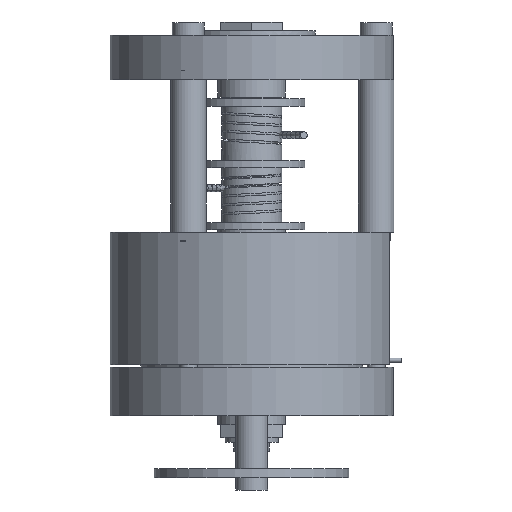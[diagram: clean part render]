
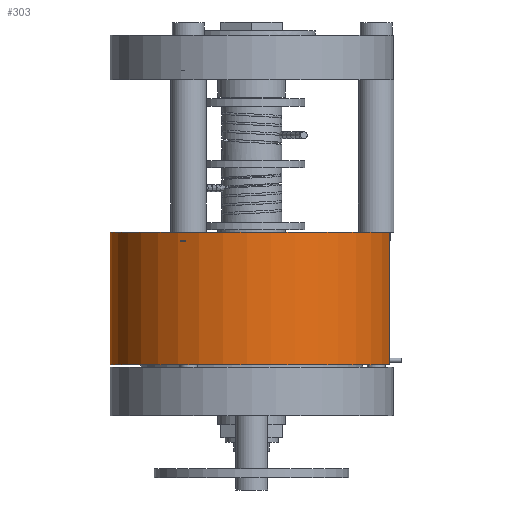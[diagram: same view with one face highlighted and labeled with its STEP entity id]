
A CAD part, left-side view. The second image highlights one B-rep face of the part: STEP entity #303.
In plain terms, the highlighted cylindrical face has radius 16 mm (diameter 32 mm), a partial arc.
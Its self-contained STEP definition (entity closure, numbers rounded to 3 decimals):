
#187 = EDGE_CURVE('',#188,#190,#192,.T.);
#188 = VERTEX_POINT('',#189);
#189 = CARTESIAN_POINT('',(16.,0.,-0.25));
#190 = VERTEX_POINT('',#191);
#191 = CARTESIAN_POINT('',(16.,0.,14.75));
#192 = SURFACE_CURVE('',#193,(#197,#209),.PCURVE_S1.);
#193 = LINE('',#194,#195);
#194 = CARTESIAN_POINT('',(16.,0.,-0.25));
#195 = VECTOR('',#196,1.);
#196 = DIRECTION('',(0.,0.,1.));
#197 = PCURVE('',#198,#203);
#198 = CYLINDRICAL_SURFACE('',#199,16.);
#199 = AXIS2_PLACEMENT_3D('',#200,#201,#202);
#200 = CARTESIAN_POINT('',(0.,0.,-0.25));
#201 = DIRECTION('',(0.,0.,1.));
#202 = DIRECTION('',(1.,0.,-0.));
#203 = DEFINITIONAL_REPRESENTATION('',(#204),#208);
#204 = LINE('',#205,#206);
#205 = CARTESIAN_POINT('',(6.283,-0.));
#206 = VECTOR('',#207,1.);
#207 = DIRECTION('',(0.,1.));
#208 = ( GEOMETRIC_REPRESENTATION_CONTEXT(2) 
PARAMETRIC_REPRESENTATION_CONTEXT() REPRESENTATION_CONTEXT('2D SPACE',''
  ) );
#209 = PCURVE('',#210,#215);
#210 = CYLINDRICAL_SURFACE('',#211,16.);
#211 = AXIS2_PLACEMENT_3D('',#212,#213,#214);
#212 = CARTESIAN_POINT('',(0.,0.,-0.25));
#213 = DIRECTION('',(0.,0.,1.));
#214 = DIRECTION('',(1.,0.,-0.));
#215 = DEFINITIONAL_REPRESENTATION('',(#216),#220);
#216 = LINE('',#217,#218);
#217 = CARTESIAN_POINT('',(0.,-0.));
#218 = VECTOR('',#219,1.);
#219 = DIRECTION('',(0.,1.));
#220 = ( GEOMETRIC_REPRESENTATION_CONTEXT(2) 
PARAMETRIC_REPRESENTATION_CONTEXT() REPRESENTATION_CONTEXT('2D SPACE',''
  ) );
#239 = PLANE('',#240);
#240 = AXIS2_PLACEMENT_3D('',#241,#242,#243);
#241 = CARTESIAN_POINT('',(0.,0.,14.75));
#242 = DIRECTION('',(0.,0.,1.));
#243 = DIRECTION('',(1.,0.,-0.));
#292 = PLANE('',#293);
#293 = AXIS2_PLACEMENT_3D('',#294,#295,#296);
#294 = CARTESIAN_POINT('',(0.,0.,-0.25));
#295 = DIRECTION('',(0.,0.,1.));
#296 = DIRECTION('',(1.,0.,-0.));
#303 = ADVANCED_FACE('',(#304),#210,.T.);
#304 = FACE_BOUND('',#305,.T.);
#305 = EDGE_LOOP('',(#306,#330,#331,#355));
#306 = ORIENTED_EDGE('',*,*,#307,.F.);
#307 = EDGE_CURVE('',#190,#308,#310,.T.);
#308 = VERTEX_POINT('',#309);
#309 = CARTESIAN_POINT('',(-3.5,-15.612,14.75));
#310 = SURFACE_CURVE('',#311,(#316,#323),.PCURVE_S1.);
#311 = CIRCLE('',#312,16.);
#312 = AXIS2_PLACEMENT_3D('',#313,#314,#315);
#313 = CARTESIAN_POINT('',(0.,0.,14.75));
#314 = DIRECTION('',(0.,0.,1.));
#315 = DIRECTION('',(1.,0.,-0.));
#316 = PCURVE('',#210,#317);
#317 = DEFINITIONAL_REPRESENTATION('',(#318),#322);
#318 = LINE('',#319,#320);
#319 = CARTESIAN_POINT('',(0.,15.));
#320 = VECTOR('',#321,1.);
#321 = DIRECTION('',(1.,0.));
#322 = ( GEOMETRIC_REPRESENTATION_CONTEXT(2) 
PARAMETRIC_REPRESENTATION_CONTEXT() REPRESENTATION_CONTEXT('2D SPACE',''
  ) );
#323 = PCURVE('',#239,#324);
#324 = DEFINITIONAL_REPRESENTATION('',(#325),#329);
#325 = CIRCLE('',#326,16.);
#326 = AXIS2_PLACEMENT_2D('',#327,#328);
#327 = CARTESIAN_POINT('',(0.,0.));
#328 = DIRECTION('',(1.,0.));
#329 = ( GEOMETRIC_REPRESENTATION_CONTEXT(2) 
PARAMETRIC_REPRESENTATION_CONTEXT() REPRESENTATION_CONTEXT('2D SPACE',''
  ) );
#330 = ORIENTED_EDGE('',*,*,#187,.F.);
#331 = ORIENTED_EDGE('',*,*,#332,.T.);
#332 = EDGE_CURVE('',#188,#333,#335,.T.);
#333 = VERTEX_POINT('',#334);
#334 = CARTESIAN_POINT('',(-3.5,-15.612,-0.25));
#335 = SURFACE_CURVE('',#336,(#341,#348),.PCURVE_S1.);
#336 = CIRCLE('',#337,16.);
#337 = AXIS2_PLACEMENT_3D('',#338,#339,#340);
#338 = CARTESIAN_POINT('',(0.,0.,-0.25));
#339 = DIRECTION('',(0.,0.,1.));
#340 = DIRECTION('',(1.,0.,-0.));
#341 = PCURVE('',#210,#342);
#342 = DEFINITIONAL_REPRESENTATION('',(#343),#347);
#343 = LINE('',#344,#345);
#344 = CARTESIAN_POINT('',(0.,0.));
#345 = VECTOR('',#346,1.);
#346 = DIRECTION('',(1.,0.));
#347 = ( GEOMETRIC_REPRESENTATION_CONTEXT(2) 
PARAMETRIC_REPRESENTATION_CONTEXT() REPRESENTATION_CONTEXT('2D SPACE',''
  ) );
#348 = PCURVE('',#292,#349);
#349 = DEFINITIONAL_REPRESENTATION('',(#350),#354);
#350 = CIRCLE('',#351,16.);
#351 = AXIS2_PLACEMENT_2D('',#352,#353);
#352 = CARTESIAN_POINT('',(0.,0.));
#353 = DIRECTION('',(1.,0.));
#354 = ( GEOMETRIC_REPRESENTATION_CONTEXT(2) 
PARAMETRIC_REPRESENTATION_CONTEXT() REPRESENTATION_CONTEXT('2D SPACE',''
  ) );
#355 = ORIENTED_EDGE('',*,*,#356,.T.);
#356 = EDGE_CURVE('',#333,#308,#357,.T.);
#357 = SURFACE_CURVE('',#358,(#362,#368),.PCURVE_S1.);
#358 = LINE('',#359,#360);
#359 = CARTESIAN_POINT('',(-3.5,-15.612,-0.25));
#360 = VECTOR('',#361,1.);
#361 = DIRECTION('',(0.,0.,1.));
#362 = PCURVE('',#210,#363);
#363 = DEFINITIONAL_REPRESENTATION('',(#364),#367);
#364 = B_SPLINE_CURVE_WITH_KNOTS('',1,(#365,#366),.UNSPECIFIED.,.F.,.F.,
  (2,2),(0.,15.),.PIECEWISE_BEZIER_KNOTS.);
#365 = CARTESIAN_POINT('',(4.492,0.));
#366 = CARTESIAN_POINT('',(4.492,15.));
#367 = ( GEOMETRIC_REPRESENTATION_CONTEXT(2) 
PARAMETRIC_REPRESENTATION_CONTEXT() REPRESENTATION_CONTEXT('2D SPACE',''
  ) );
#368 = PCURVE('',#369,#374);
#369 = PLANE('',#370);
#370 = AXIS2_PLACEMENT_3D('',#371,#372,#373);
#371 = CARTESIAN_POINT('',(-3.5,-20.5,-1.));
#372 = DIRECTION('',(1.,0.,0.));
#373 = DIRECTION('',(0.,0.,1.));
#374 = DEFINITIONAL_REPRESENTATION('',(#375),#378);
#375 = B_SPLINE_CURVE_WITH_KNOTS('',1,(#376,#377),.UNSPECIFIED.,.F.,.F.,
  (2,2),(0.,15.),.PIECEWISE_BEZIER_KNOTS.);
#376 = CARTESIAN_POINT('',(0.75,-4.888));
#377 = CARTESIAN_POINT('',(15.75,-4.888));
#378 = ( GEOMETRIC_REPRESENTATION_CONTEXT(2) 
PARAMETRIC_REPRESENTATION_CONTEXT() REPRESENTATION_CONTEXT('2D SPACE',''
  ) );
